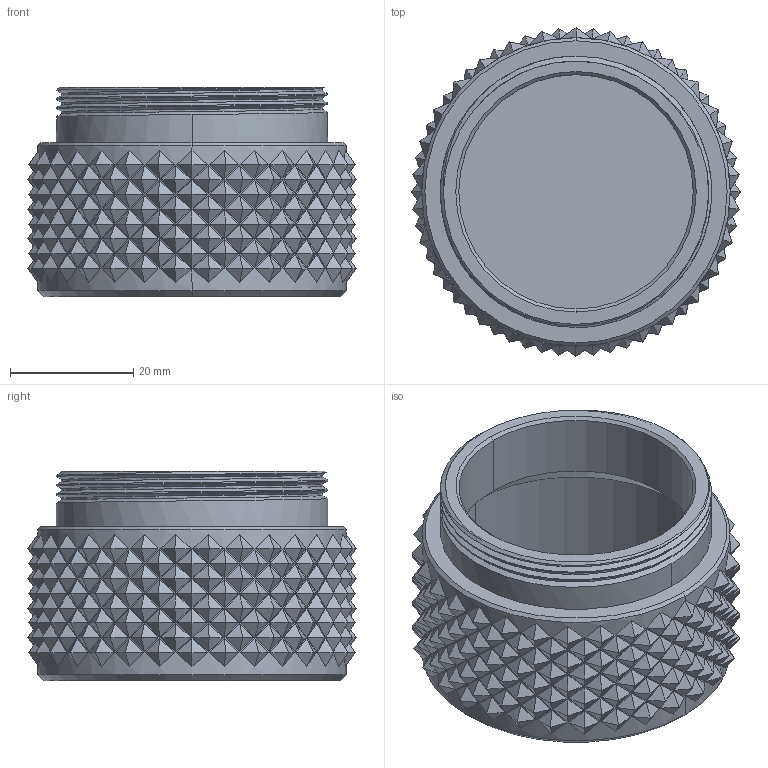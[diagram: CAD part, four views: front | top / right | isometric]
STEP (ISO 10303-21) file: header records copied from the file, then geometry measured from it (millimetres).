
FILE_DESCRIPTION (( 'STEP AP214' ), '1' );
FILE_NAME ('BODY KNURLING PATTERN.STEP', '2023-09-26T15:06:34', ( '' ), ( '' ), 'SwSTEP 2.0', 'SolidWorks 2023', '' );
FILE_SCHEMA (( 'AUTOMOTIVE_DESIGN' ));
Length unit declared in the file: millimetre
Products named in the file (1): BODY KNURLING PATTERN
Bounding box: 53.24 x 53.24 x 34 mm (x, y, z)
Volume: 17297.4 mm3; surface area: 15284.9 mm2
Topology: 1 solids, 1 shells, 995 faces, 2008 edges, 1249 vertices
Faces by surface type: plane 968, cylinder 13, cone 11, bspline 3
Entity records: 25628 total; most frequent: CARTESIAN_POINT 7814, ORIENTED_EDGE 4016, DIRECTION 3028, EDGE_CURVE 2008, VERTEX_POINT 1249, EDGE_LOOP 1229, AXIS2_PLACEMENT_3D 1017, FACE_OUTER_BOUND 995
